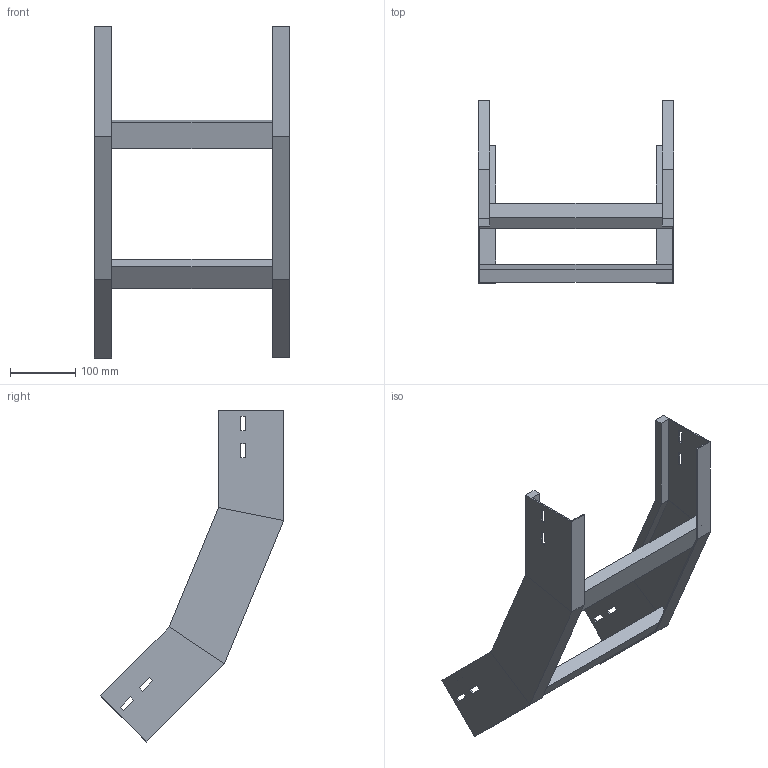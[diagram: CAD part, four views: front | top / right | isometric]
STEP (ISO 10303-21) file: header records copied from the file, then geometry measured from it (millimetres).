
FILE_DESCRIPTION (( 'STEP AP214' ), '1' );
FILE_NAME ('B2X31B5D300XX.step', '2025-03-20T10:05:47', ( '' ), ( '' ), 'SwSTEP 2.0', 'SolidWorks 2023', '' );
FILE_SCHEMA (( 'AUTOMOTIVE_DESIGN' ));
Length unit declared in the file: millimetre
Products named in the file (3): TRAVERSINO_300; B2X31B5D300XX; LONGH.SALITA_45°_H100_R500
Assembly tree (4 placements, depth 2):
  B2X31B5D300XX
    LONGH.SALITA_45°_H100_R500  x2
    TRAVERSINO_300  x2
Bounding box: 300 x 281.75 x 509.5 mm (x, y, z)
Volume: 942676.9 mm3; surface area: 384222.2 mm2
Topology: 4 solids, 4 shells, 96 faces, 232 edges, 144 vertices
Faces by surface type: plane 96
Entity records: 1472 total; most frequent: CARTESIAN_POINT 243, ORIENTED_EDGE 232, DIRECTION 226, VECTOR 116, LINE 116, EDGE_CURVE 116, VERTEX_POINT 72, EDGE_LOOP 56
